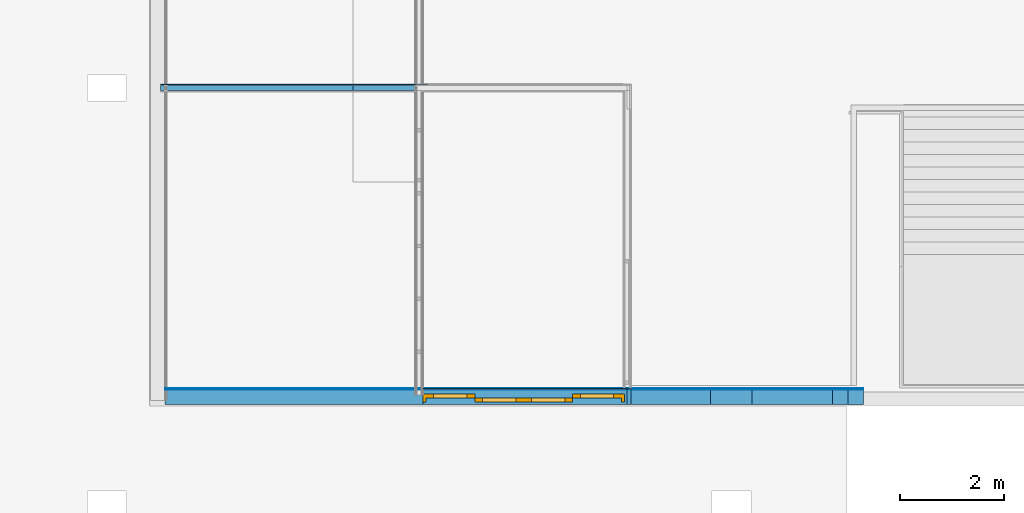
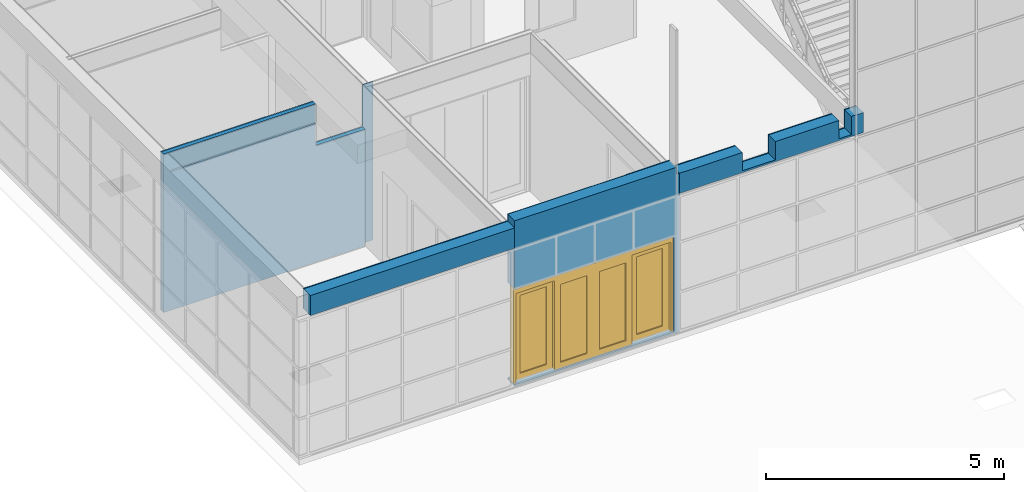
# One storey, part 29 of 109: 8 building element parts, 1 door, 1 opening, 3 elements without a shape of their own.
"""IFC2X3 building model written with IfcOpenShell, lengths in millimetres."""

from ifc_helpers import new_model, entity, si_unit, converted_unit, derived_unit, money_unit, direction, frame, origin_with_axes, place, context, subcontext, project, spatial, open_shell, faceted_brep, surface_model, material, type_object, element, fill, aggregate, save


model = new_model("IFC2X3")

# Units and contexts
model_context = context("Model", 3, precision=0.01, world=origin_with_axes(), true_north=direction((0.0, 1.0)))
body_context = subcontext(model_context, "Body", "Model", "MODEL_VIEW")
ifc_project = project(units=[si_unit("LENGTHUNIT", "METRE", prefix="MILLI"), si_unit("AREAUNIT", "SQUARE_METRE"), si_unit("VOLUMEUNIT", "CUBIC_METRE"), converted_unit("PLANEANGLEUNIT", "DEGREE", entity("IfcPlaneAngleMeasure", 0.0174532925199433), si_unit("PLANEANGLEUNIT", "RADIAN"), dimensions=[0, 0, 0, 0, 0, 0, 0]), money_unit("EUR"), converted_unit("TIMEUNIT", "Year", entity("IfcTimeMeasure", 31557600.0), si_unit("TIMEUNIT", "SECOND"), dimensions=[0, 0, 1, 0, 0, 0, 0]), si_unit("MASSUNIT", "GRAM", prefix="KILO"), si_unit("THERMODYNAMICTEMPERATUREUNIT", "DEGREE_CELSIUS"), si_unit("LUMINOUSINTENSITYUNIT", "LUMEN"), si_unit("ENERGYUNIT", "JOULE", prefix="MEGA"), derived_unit("THERMALCONDUCTANCEUNIT", [(si_unit("POWERUNIT", "WATT"), 1), (si_unit("LENGTHUNIT", "METRE"), -1), (si_unit("THERMODYNAMICTEMPERATUREUNIT", "KELVIN"), -1)]), derived_unit("SPECIFICHEATCAPACITYUNIT", [(si_unit("ENERGYUNIT", "JOULE"), 1), (si_unit("MASSUNIT", "GRAM", prefix="KILO"), -1), (si_unit("THERMODYNAMICTEMPERATUREUNIT", "KELVIN"), -1)]), derived_unit("MASSDENSITYUNIT", [(si_unit("MASSUNIT", "GRAM", prefix="KILO"), 1), (si_unit("VOLUMEUNIT", "CUBIC_METRE"), -1)])], contexts=[model_context])

# Site, building, storey
site_placement = place(None, origin_with_axes())
site = spatial("IfcSite", under=ifc_project, at=site_placement, Name="<site naam>", CompositionType="ELEMENT")
building_placement = place(site_placement, origin_with_axes())
building = spatial("IfcBuilding", under=site, at=building_placement, Name="<Naam gebouw>", CompositionType="ELEMENT")
storey_placement = place(building_placement, origin_with_axes())
storey = spatial("IfcBuildingStorey", under=building, at=storey_placement, Name="00 Begane grond", CompositionType="ELEMENT", Elevation=0.0)

# Door
door_style = type_object("IfcDoorStyle", Name="DSn 27", ConstructionType="NOTDEFINED", OperationType="USERDEFINED", ParameterTakesPrecedence=False, Sizeable=False)
wall_1_placement = place(storey_placement, frame((-3924.999999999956, 2231.999127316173, 0.0), z_axis=(0.0, 0.0, 1.0), x_axis=(1.0, 0.0, 0.0)))
opening_placement = place(wall_1_placement, frame((1934.999960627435, 0.0, 39.9957201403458), z_axis=(0.0, 0.0, 1.0), x_axis=(1.0, 0.0, 0.0)))
door_placement = place(opening_placement, frame((-1934.999960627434, 0.0, 0.0), z_axis=(0.0, 0.0, 1.0), x_axis=(1.0, 0.0, 0.0)))
door = element("IfcDoor", 1, at=door_placement, inside=storey, type_object=door_style, Name="21_BU-E-01_305", ObjectType="DOOR", OverallHeight=2450.0, OverallWidth=3870.0, context=body_context, shape_type="SurfaceModel", body=[
    faceted_brep([(3869.999921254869, -109.5000000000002, 0.0), (3869.999921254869, -269.0000000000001, 0.0), (3814.999921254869, -269.0000000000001, 0.0), (3814.999921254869, -109.5000000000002, 0.0), (3869.999921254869, -109.5000000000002, 2300.0), (3869.999921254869, -269.0000000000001, 2300.0), (3814.999921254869, -269.0000000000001, 2300.0), (3814.999921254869, -109.5000000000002, 2300.0)], [[[0, 1, 2, 3]], [[4, 5, 1, 0]], [[1, 5, 6, 2]], [[3, 2, 6, 7]], [[0, 3, 7, 4]], [[7, 6, 5, 4]]]),
    faceted_brep([(0.0, -109.5000000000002, 0.0), (0.0, -269.0000000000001, 0.0), (0.0, -269.0000000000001, 2300.0), (0.0, -109.5000000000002, 2300.0), (54.99999999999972, -109.5000000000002, 0.0), (54.99999999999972, -269.0000000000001, 0.0), (54.99999999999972, -269.0000000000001, 2300.0), (54.99999999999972, -109.5000000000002, 2300.0)], [[[0, 1, 2, 3]], [[4, 5, 1, 0]], [[1, 5, 6, 2]], [[3, 2, 6, 7]], [[0, 3, 7, 4]], [[7, 6, 5, 4]]]),
    faceted_brep([(3869.999921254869, -109.5000000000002, 2450.0), (3869.999921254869, -269.0000000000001, 2450.0), (3869.999921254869, -269.0000000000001, 2300.0), (3869.999921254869, -109.5000000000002, 2300.0), (0.0, -109.5000000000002, 2450.0), (0.0, -269.0000000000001, 2450.0), (0.0, -269.0000000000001, 2300.0), (54.99999999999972, -269.0000000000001, 2300.0), (3814.999921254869, -269.0000000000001, 2300.0), (3814.999921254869, -109.5000000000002, 2300.0), (54.99999999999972, -109.5000000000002, 2300.0), (0.0, -109.5000000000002, 2300.0)], [[[0, 1, 2, 3]], [[4, 5, 1, 0]], [[1, 5, 6, 7, 8, 2]], [[3, 2, 8, 9]], [[0, 3, 9, 10, 11, 4]], [[11, 6, 5, 4]], [[10, 7, 6, 11]], [[9, 8, 7, 10]]]),
    faceted_brep([(2874.999940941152, -109.5000000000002, 150.0), (3024.999940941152, -109.5000000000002, 150.0), (3024.999940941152, -186.5000000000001, 150.0), (2874.999940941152, -186.5000000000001, 150.0), (2874.999940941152, -109.5000000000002, 2150.0), (3024.999940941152, -109.5000000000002, 2150.0), (3024.999940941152, -186.5000000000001, 2150.0), (2874.999940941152, -186.5000000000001, 2150.0)], [[[0, 1, 2, 3]], [[0, 4, 5, 1]], [[1, 5, 6, 2]], [[3, 2, 6, 7]], [[4, 0, 3, 7]], [[5, 4, 7, 6]]]),
    faceted_brep([(3814.999921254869, -109.5000000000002, 150.0), (3814.999921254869, -109.5000000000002, 2150.0), (3814.999921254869, -186.5000000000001, 2150.0), (3814.999921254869, -186.5000000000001, 150.0), (3664.999921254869, -109.5000000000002, 150.0), (3664.999921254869, -109.5000000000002, 2150.0), (3664.999921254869, -186.5000000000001, 2150.0), (3664.999921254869, -186.5000000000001, 150.0)], [[[0, 1, 2, 3]], [[0, 4, 5, 1]], [[1, 5, 6, 2]], [[3, 2, 6, 7]], [[4, 0, 3, 7]], [[5, 4, 7, 6]]]),
    faceted_brep([(2874.999940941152, -109.5000000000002, 0.0), (3814.999921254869, -109.5000000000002, 0.0), (3814.999921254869, -186.5000000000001, 0.0), (2874.999940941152, -186.5000000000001, 0.0), (2874.999940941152, -109.5000000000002, 150.0), (3024.999940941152, -109.5000000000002, 150.0), (3664.999921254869, -109.5000000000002, 150.0), (3814.999921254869, -109.5000000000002, 150.0), (3814.999921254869, -186.5000000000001, 150.0), (3664.999921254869, -186.5000000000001, 150.0), (3024.999940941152, -186.5000000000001, 150.0), (2874.999940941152, -186.5000000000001, 150.0)], [[[0, 1, 2, 3]], [[0, 4, 5, 6, 7, 1]], [[1, 7, 8, 2]], [[3, 2, 8, 9, 10, 11]], [[4, 0, 3, 11]], [[5, 4, 11, 10]], [[6, 5, 10, 9]], [[7, 6, 9, 8]]]),
    faceted_brep([(2874.999940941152, -109.5000000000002, 2300.0), (2874.999940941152, -109.5000000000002, 2150.0), (2874.999940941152, -186.5000000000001, 2150.0), (2874.999940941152, -186.5000000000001, 2300.0), (3814.999921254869, -109.5000000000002, 2300.0), (3814.999921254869, -109.5000000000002, 2150.0), (3664.999921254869, -109.5000000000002, 2150.0), (3024.999940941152, -109.5000000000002, 2150.0), (3024.999940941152, -186.5000000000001, 2150.0), (3664.999921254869, -186.5000000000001, 2150.0), (3814.999921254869, -186.5000000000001, 2150.0), (3814.999921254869, -186.5000000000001, 2300.0)], [[[0, 1, 2, 3]], [[0, 4, 5, 6, 7, 1]], [[1, 7, 8, 2]], [[3, 2, 8, 9, 10, 11]], [[4, 0, 3, 11]], [[5, 4, 11, 10]], [[6, 5, 10, 9]], [[7, 6, 9, 8]]]),
    surface_model("IfcShellBasedSurfaceModel", [(3024.999940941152, -142.0000000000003, 150.0), (3024.999940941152, -141.9999999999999, 2150.0), (3664.999921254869, -141.9999999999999, 2150.0), (3664.999921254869, -142.0000000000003, 150.0)], [open_shell([[[0, 1, 2, 3]]])]),
    surface_model("IfcShellBasedSurfaceModel", [(3024.999940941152, -154.0000000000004, 150.0), (3664.999921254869, -154.0000000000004, 150.0), (3664.999921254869, -153.9999999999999, 2150.0), (3024.999940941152, -153.9999999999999, 2150.0)], [open_shell([[[0, 1, 2, 3]]])]),
    faceted_brep([(2874.999940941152, -186.5000000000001, 150.0), (2874.999940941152, -263.5000000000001, 150.0), (2724.999940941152, -263.5000000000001, 150.0), (2724.999940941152, -186.5000000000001, 150.0), (2874.999940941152, -186.5000000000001, 2150.0), (2874.999940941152, -263.5000000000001, 2150.0), (2724.999940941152, -263.5000000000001, 2150.0), (2724.999940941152, -186.5000000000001, 2150.0)], [[[0, 1, 2, 3]], [[4, 5, 1, 0]], [[1, 5, 6, 2]], [[3, 2, 6, 7]], [[0, 3, 7, 4]], [[7, 6, 5, 4]]]),
    faceted_brep([(1934.999960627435, -186.5000000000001, 150.0), (1934.999960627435, -263.5000000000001, 150.0), (1934.999960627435, -263.5000000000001, 2150.0), (1934.999960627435, -186.5000000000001, 2150.0), (2084.999960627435, -186.5000000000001, 150.0), (2084.999960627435, -263.5000000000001, 150.0), (2084.999960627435, -263.5000000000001, 2150.0), (2084.999960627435, -186.5000000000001, 2150.0)], [[[0, 1, 2, 3]], [[4, 5, 1, 0]], [[1, 5, 6, 2]], [[3, 2, 6, 7]], [[0, 3, 7, 4]], [[7, 6, 5, 4]]]),
    faceted_brep([(2874.999940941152, -186.5000000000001, 0.0), (2874.999940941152, -263.5000000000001, 0.0), (1934.999960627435, -263.5000000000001, 0.0), (1934.999960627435, -186.5000000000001, 0.0), (2874.999940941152, -186.5000000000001, 150.0), (2874.999940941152, -263.5000000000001, 150.0), (2724.999940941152, -263.5000000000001, 150.0), (2084.999960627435, -263.5000000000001, 150.0), (1934.999960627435, -263.5000000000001, 150.0), (1934.999960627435, -186.5000000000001, 150.0), (2084.999960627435, -186.5000000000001, 150.0), (2724.999940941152, -186.5000000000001, 150.0)], [[[0, 1, 2, 3]], [[4, 5, 1, 0]], [[1, 5, 6, 7, 8, 2]], [[3, 2, 8, 9]], [[0, 3, 9, 10, 11, 4]], [[11, 6, 5, 4]], [[10, 7, 6, 11]], [[9, 8, 7, 10]]]),
    faceted_brep([(2874.999940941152, -186.5000000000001, 2300.0), (2874.999940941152, -263.5000000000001, 2300.0), (2874.999940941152, -263.5000000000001, 2150.0), (2874.999940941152, -186.5000000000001, 2150.0), (1934.999960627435, -186.5000000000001, 2300.0), (1934.999960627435, -263.5000000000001, 2300.0), (1934.999960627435, -263.5000000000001, 2150.0), (2084.999960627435, -263.5000000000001, 2150.0), (2724.999940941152, -263.5000000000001, 2150.0), (2724.999940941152, -186.5000000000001, 2150.0), (2084.999960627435, -186.5000000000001, 2150.0), (1934.999960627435, -186.5000000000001, 2150.0)], [[[0, 1, 2, 3]], [[4, 5, 1, 0]], [[1, 5, 6, 7, 8, 2]], [[3, 2, 8, 9]], [[0, 3, 9, 10, 11, 4]], [[11, 6, 5, 4]], [[10, 7, 6, 11]], [[9, 8, 7, 10]]]),
    surface_model("IfcShellBasedSurfaceModel", [(2724.999940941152, -219.0000000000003, 150.0), (2084.999960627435, -219.0000000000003, 150.0), (2084.999960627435, -218.9999999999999, 2150.0), (2724.999940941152, -218.9999999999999, 2150.0)], [open_shell([[[0, 1, 2, 3]]])]),
    surface_model("IfcShellBasedSurfaceModel", [(2724.999940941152, -231.0000000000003, 150.0), (2724.999940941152, -230.9999999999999, 2150.0), (2084.999960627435, -230.9999999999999, 2150.0), (2084.999960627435, -231.0000000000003, 150.0)], [open_shell([[[0, 1, 2, 3]]])]),
    faceted_brep([(994.9999803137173, -109.5000000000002, 150.0), (994.9999803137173, -186.5000000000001, 150.0), (844.9999803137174, -186.5000000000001, 150.0), (844.9999803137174, -109.5000000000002, 150.0), (994.9999803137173, -109.5000000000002, 2150.0), (994.9999803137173, -186.5000000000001, 2150.0), (844.9999803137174, -186.5000000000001, 2150.0), (844.9999803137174, -109.5000000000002, 2150.0)], [[[0, 1, 2, 3]], [[4, 5, 1, 0]], [[1, 5, 6, 2]], [[3, 2, 6, 7]], [[0, 3, 7, 4]], [[7, 6, 5, 4]]]),
    faceted_brep([(55.00000000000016, -109.5000000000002, 150.0), (55.00000000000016, -186.5000000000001, 150.0), (55.00000000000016, -186.5000000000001, 2150.0), (55.00000000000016, -109.5000000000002, 2150.0), (205.0000000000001, -109.5000000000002, 150.0), (205.0000000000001, -186.5000000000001, 150.0), (205.0000000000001, -186.5000000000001, 2150.0), (205.0000000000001, -109.5000000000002, 2150.0)], [[[0, 1, 2, 3]], [[4, 5, 1, 0]], [[1, 5, 6, 2]], [[3, 2, 6, 7]], [[0, 3, 7, 4]], [[7, 6, 5, 4]]]),
    faceted_brep([(994.9999803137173, -109.5000000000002, 0.0), (994.9999803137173, -186.5000000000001, 0.0), (55.00000000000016, -186.5000000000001, 0.0), (55.00000000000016, -109.5000000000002, 0.0), (994.9999803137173, -109.5000000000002, 150.0), (994.9999803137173, -186.5000000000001, 150.0), (844.9999803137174, -186.5000000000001, 150.0), (205.0000000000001, -186.5000000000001, 150.0), (55.00000000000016, -186.5000000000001, 150.0), (55.00000000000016, -109.5000000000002, 150.0), (205.0000000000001, -109.5000000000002, 150.0), (844.9999803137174, -109.5000000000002, 150.0)], [[[0, 1, 2, 3]], [[4, 5, 1, 0]], [[1, 5, 6, 7, 8, 2]], [[3, 2, 8, 9]], [[0, 3, 9, 10, 11, 4]], [[11, 6, 5, 4]], [[10, 7, 6, 11]], [[9, 8, 7, 10]]]),
    faceted_brep([(994.9999803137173, -109.5000000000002, 2300.0), (994.9999803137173, -186.5000000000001, 2300.0), (994.9999803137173, -186.5000000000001, 2150.0), (994.9999803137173, -109.5000000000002, 2150.0), (55.00000000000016, -109.5000000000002, 2300.0), (55.00000000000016, -186.5000000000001, 2300.0), (55.00000000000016, -186.5000000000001, 2150.0), (205.0000000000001, -186.5000000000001, 2150.0), (844.9999803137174, -186.5000000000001, 2150.0), (844.9999803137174, -109.5000000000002, 2150.0), (205.0000000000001, -109.5000000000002, 2150.0), (55.00000000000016, -109.5000000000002, 2150.0)], [[[0, 1, 2, 3]], [[4, 5, 1, 0]], [[1, 5, 6, 7, 8, 2]], [[3, 2, 8, 9]], [[0, 3, 9, 10, 11, 4]], [[11, 6, 5, 4]], [[10, 7, 6, 11]], [[9, 8, 7, 10]]]),
    surface_model("IfcShellBasedSurfaceModel", [(844.9999803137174, -142.0000000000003, 150.0), (205.0000000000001, -142.0000000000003, 150.0), (205.0000000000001, -141.9999999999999, 2150.0), (844.9999803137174, -141.9999999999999, 2150.0)], [open_shell([[[0, 1, 2, 3]]])]),
    surface_model("IfcShellBasedSurfaceModel", [(844.9999803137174, -154.0000000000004, 150.0), (844.9999803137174, -153.9999999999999, 2150.0), (205.0000000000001, -153.9999999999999, 2150.0), (205.0000000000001, -154.0000000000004, 150.0)], [open_shell([[[0, 1, 2, 3]]])]),
    faceted_brep([(994.9999803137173, -186.5000000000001, 150.0), (1144.999980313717, -186.5000000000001, 150.0), (1144.999980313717, -263.5000000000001, 150.0), (994.9999803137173, -263.5000000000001, 150.0), (994.9999803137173, -186.5000000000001, 2150.0), (1144.999980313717, -186.5000000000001, 2150.0), (1144.999980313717, -263.5000000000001, 2150.0), (994.9999803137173, -263.5000000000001, 2150.0)], [[[0, 1, 2, 3]], [[0, 4, 5, 1]], [[1, 5, 6, 2]], [[3, 2, 6, 7]], [[4, 0, 3, 7]], [[5, 4, 7, 6]]]),
    faceted_brep([(1934.999960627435, -186.5000000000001, 150.0), (1934.999960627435, -186.5000000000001, 2150.0), (1934.999960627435, -263.5000000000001, 2150.0), (1934.999960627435, -263.5000000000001, 150.0), (1784.999960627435, -186.5000000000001, 150.0), (1784.999960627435, -186.5000000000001, 2150.0), (1784.999960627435, -263.5000000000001, 2150.0), (1784.999960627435, -263.5000000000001, 150.0)], [[[0, 1, 2, 3]], [[0, 4, 5, 1]], [[1, 5, 6, 2]], [[3, 2, 6, 7]], [[4, 0, 3, 7]], [[5, 4, 7, 6]]]),
    faceted_brep([(994.9999803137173, -186.5000000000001, 0.0), (1934.999960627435, -186.5000000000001, 0.0), (1934.999960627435, -263.5000000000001, 0.0), (994.9999803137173, -263.5000000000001, 0.0), (994.9999803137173, -186.5000000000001, 150.0), (1144.999980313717, -186.5000000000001, 150.0), (1784.999960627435, -186.5000000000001, 150.0), (1934.999960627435, -186.5000000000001, 150.0), (1934.999960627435, -263.5000000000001, 150.0), (1784.999960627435, -263.5000000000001, 150.0), (1144.999980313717, -263.5000000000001, 150.0), (994.9999803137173, -263.5000000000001, 150.0)], [[[0, 1, 2, 3]], [[0, 4, 5, 6, 7, 1]], [[1, 7, 8, 2]], [[3, 2, 8, 9, 10, 11]], [[4, 0, 3, 11]], [[5, 4, 11, 10]], [[6, 5, 10, 9]], [[7, 6, 9, 8]]]),
    faceted_brep([(994.9999803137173, -186.5000000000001, 2300.0), (994.9999803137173, -186.5000000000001, 2150.0), (994.9999803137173, -263.5000000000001, 2150.0), (994.9999803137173, -263.5000000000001, 2300.0), (1934.999960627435, -186.5000000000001, 2300.0), (1934.999960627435, -186.5000000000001, 2150.0), (1784.999960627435, -186.5000000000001, 2150.0), (1144.999980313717, -186.5000000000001, 2150.0), (1144.999980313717, -263.5000000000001, 2150.0), (1784.999960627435, -263.5000000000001, 2150.0), (1934.999960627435, -263.5000000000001, 2150.0), (1934.999960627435, -263.5000000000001, 2300.0)], [[[0, 1, 2, 3]], [[0, 4, 5, 6, 7, 1]], [[1, 7, 8, 2]], [[3, 2, 8, 9, 10, 11]], [[4, 0, 3, 11]], [[5, 4, 11, 10]], [[6, 5, 10, 9]], [[7, 6, 9, 8]]]),
    surface_model("IfcShellBasedSurfaceModel", [(1144.999980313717, -219.0000000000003, 150.0), (1144.999980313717, -218.9999999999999, 2150.0), (1784.999960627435, -218.9999999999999, 2150.0), (1784.999960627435, -219.0000000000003, 150.0)], [open_shell([[[0, 1, 2, 3]]])]),
    surface_model("IfcShellBasedSurfaceModel", [(1144.999980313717, -231.0000000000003, 150.0), (1784.999960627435, -231.0000000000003, 150.0), (1784.999960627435, -230.9999999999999, 2150.0), (1144.999980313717, -230.9999999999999, 2150.0)], [open_shell([[[0, 1, 2, 3]]])]),
])

# Wall, opening
wall_type_1 = type_object("IfcWallType", Name="HSB_285 zonder gevelbeplating 313", PredefinedType="NOTDEFINED")
wall_1 = element("IfcWall", 2, at=wall_1_placement, inside=storey, type_object=wall_type_1, Name="21_Binnenwand_HSB_285")
opening = element("IfcOpeningElement", 3, at=opening_placement, cuts=wall_1, Name="21_BU-E-01_305", context=body_context, shape_type="Brep", body=[
    faceted_brep([(1934.999960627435, -269.0000000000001, 0.0), (1934.999960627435, -269.0000000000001, 2450.0), (1934.999960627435, -313.5000000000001, 2450.0), (1934.999960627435, -313.5000000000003, 0.0), (1934.999960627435, 0.9999999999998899, 0.0), (1934.999960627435, 0.9999999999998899, 2450.0), (-1934.999960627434, -269.0000000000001, 2450.0), (-1934.999960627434, -313.5000000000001, 2450.0), (-1934.999960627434, -313.5000000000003, 0.0), (-1934.999960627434, -269.0000000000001, 0.0), (-1934.999960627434, 0.9999999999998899, 0.0), (-1934.999960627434, 0.9999999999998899, 2450.0)], [[[0, 1, 2, 3]], [[1, 0, 4, 5]], [[1, 6, 7, 2]], [[7, 8, 3, 2]], [[9, 0, 3, 8]], [[0, 9, 10, 4]], [[5, 4, 10, 11]], [[6, 1, 5, 11]], [[6, 9, 8, 7]], [[9, 6, 11, 10]]]),
])

fill(opening, door)

# Building element part
ifc_material_1 = material(Name="gipsplaat")
building_element_part_1_placement = place(wall_1_placement, origin_with_axes())
building_element_part_1 = element("IfcBuildingElementPart", 4, at=building_element_part_1_placement, material=ifc_material_1, Name="gipsplaat", context=body_context, shape_type="Brep", body=[
    faceted_brep([(0.001377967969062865, 0.0, 4220.0), (2874.999999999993, 0.0, 4220.0), (2874.999999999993, 0.0, 4250.0), (3924.99992125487, 0.0, 4250.000000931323), (3924.99992125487, 0.0, 4070.0), (3850.000000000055, 0.0, 4070.0), (3849.999983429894, 0.0, 3.000000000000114), (-3.665686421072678e-06, 0.0, 3.000000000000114), (0.001377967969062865, -12.50000000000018, 4220.0), (2874.999999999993, -12.50000000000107, 4220.0), (2874.999999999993, -12.50000000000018, 4250.0), (3924.99992125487, -12.49999999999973, 4250.000000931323), (3924.99992125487, -12.49999999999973, 4070.0), (3850.000000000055, -12.49999999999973, 4070.0), (3849.999983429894, -12.4999999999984, 3.000000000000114), (-3.665686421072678e-06, -12.50000000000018, 3.000000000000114)], [[[0, 1, 2, 3, 4, 5, 6, 7]], [[1, 0, 8, 9]], [[10, 2, 1, 9]], [[2, 10, 11, 3]], [[11, 12, 4, 3]], [[12, 13, 5, 4]], [[14, 6, 5, 13]], [[7, 6, 14, 15]], [[8, 0, 7, 15]], [[9, 8, 15, 14, 13, 12, 11, 10]]]),
])

ifc_material_2 = material(Name="hout_OSB")
building_element_part_2_placement = place(wall_1_placement, origin_with_axes())
building_element_part_2 = element("IfcBuildingElementPart", 5, at=building_element_part_2_placement, material=ifc_material_2, Name="hout_OSB", context=body_context, shape_type="Brep", body=[
    faceted_brep([(3849.999983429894, -12.49999999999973, 3.000000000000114), (-3.665686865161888e-06, -12.50000000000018, 3.000000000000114), (0.0, -12.49999999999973, 4250.0), (3924.99992125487, -12.49999999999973, 4250.000000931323), (3924.99992125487, -12.49999999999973, 4070.0), (3999.999981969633, -12.49999999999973, 4070.0), (3999.999981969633, -12.49999999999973, 0.0), (3849.999983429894, -12.49999999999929, 0.0), (3849.999983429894, -27.49999813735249, 3.000000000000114), (-3.665686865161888e-06, -27.49999999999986, 3.000000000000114), (0.0, -27.49999999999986, 4250.0), (3924.99992125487, -27.49999813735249, 4250.000000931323), (3924.99992125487, -27.49999813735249, 4070.0), (3999.999981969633, -27.49999813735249, 4070.0), (3999.999981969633, -27.49999999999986, 0.0), (3849.999983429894, -27.49999999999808, 0.0)], [[[0, 1, 2, 3, 4, 5, 6, 7]], [[1, 0, 8, 9]], [[1, 9, 10, 2]], [[10, 11, 3, 2]], [[12, 4, 3, 11]], [[12, 13, 5, 4]], [[6, 5, 13, 14]], [[15, 7, 6, 14]], [[0, 7, 15, 8]], [[8, 15, 14, 13, 12, 11, 10, 9]]]),
])

ifc_material_3 = material(Name="isolatie_houtvezel")
building_element_part_3_placement = place(wall_1_placement, origin_with_axes())
building_element_part_3 = element("IfcBuildingElementPart", 6, at=building_element_part_3_placement, material=ifc_material_3, Name="isolatie_houtvezel", context=body_context, shape_type="Brep", body=[
    faceted_brep([(3849.999983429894, -27.49999813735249, 3.000000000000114), (-3.665686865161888e-06, -27.49999999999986, 3.000000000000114), (0.0, -27.49999999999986, 4250.0), (3924.99992125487, -27.49999813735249, 4250.000000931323), (3924.99992125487, -27.49999813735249, 4070.0), (3999.999981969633, -27.49999813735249, 4070.0), (3999.999981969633, -27.49999999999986, 0.0), (3849.999983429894, -27.49999999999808, 0.0), (3849.999983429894, -128.5000000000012, 3.000000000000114), (-3.665686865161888e-06, -128.5000000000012, 3.000000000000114), (-3.665686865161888e-06, -128.5000000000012, 0.0), (0.0, -312.5, 0.0), (0.0, -312.5, 4250.0), (3924.99992125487, -312.4999999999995, 4250.000000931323), (3924.99992125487, -312.4999999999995, 4070.0), (3999.999981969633, -312.4999999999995, 4070.0), (3999.999981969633, -312.5, 0.0), (3849.999983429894, -128.5000000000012, 0.0)], [[[0, 1, 2, 3, 4, 5, 6, 7]], [[1, 0, 8, 9]], [[9, 10, 11, 12, 2, 1]], [[12, 13, 3, 2]], [[14, 4, 3, 13]], [[14, 15, 5, 4]], [[6, 5, 15, 16]], [[17, 7, 6, 16, 11, 10]], [[0, 7, 17, 8]], [[17, 10, 9, 8]], [[15, 14, 13, 12, 11, 16]]]),
])

aggregate(wall_1, [building_element_part_1, building_element_part_2, building_element_part_3])

# Wall, building element parts
wall_type_2 = type_object("IfcWallType", Name="MS-01 GF 150 ECO DGS/2.100.2.A 150", PredefinedType="NOTDEFINED")
wall_2_placement = place(storey_placement, frame((-8968.96338968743, 8000.000000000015, 0.0), z_axis=(0.0, 0.0, 1.0), x_axis=(1.0, 0.0, 0.0)))
wall_2 = element("IfcWall", 7, at=wall_2_placement, inside=storey, type_object=wall_type_2, Name="22_Binnenwand_MS-01")
building_element_part_4_placement = place(wall_2_placement, origin_with_axes())
building_element_part_4 = element("IfcBuildingElementPart", 8, at=building_element_part_4_placement, material=ifc_material_1, Name="gipsplaat", context=body_context, shape_type="Brep", body=[
    faceted_brep([(3693.915193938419, 62.5, 4070.0), (3693.915193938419, 75.00000000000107, 4070.0), (0.0, 75.00000000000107, 4070.0), (0.0, 62.5, 4070.0), (3693.915193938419, 74.99999999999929, 3600.0), (3693.915193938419, 62.5, 3600.0), (3693.915193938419, 74.99999999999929, 3000.0), (4893.963384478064, 74.99999999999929, 3000.0), (4893.963384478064, 75.00000000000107, 4070.0), (5143.963389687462, 75.00000000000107, 4070.0), (5143.963389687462, 75.00000000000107, 0.0), (0.0, 74.99999999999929, 0.0), (184.5000000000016, 74.99999999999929, 3600.0), (184.5000000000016, 74.99999999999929, 3560.0), (3693.915193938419, 74.99999999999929, 3560.0), (0.0, 62.5, 0.0), (3693.915193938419, 62.5, 3000.0), (3693.915193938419, 62.5, 3560.0), (184.5000000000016, 62.50000000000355, 3560.0), (184.5000000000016, 62.50000000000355, 3600.0), (5143.963389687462, 62.5, 0.0), (5143.963389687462, 62.5, 4070.0), (4893.963384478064, 62.5, 4070.0), (4893.963384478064, 62.5, 3000.0)], [[[0, 1, 2, 3]], [[4, 1, 0, 5]], [[6, 7, 8, 9, 10, 11, 2, 1, 4, 12, 13, 14]], [[15, 3, 2, 11]], [[16, 17, 18, 19, 5, 0, 3, 15, 20, 21, 22, 23]], [[4, 5, 19, 12]], [[7, 6, 16, 23]], [[22, 8, 7, 23]], [[8, 22, 21, 9]], [[9, 21, 20, 10]], [[20, 15, 11, 10]], [[13, 12, 19, 18]], [[17, 14, 13, 18]], [[6, 14, 17, 16]]]),
])
ifc_material_4 = material(Name="isolatie_steenwol LSW")
building_element_part_5_placement = place(wall_2_placement, origin_with_axes())
building_element_part_5 = element("IfcBuildingElementPart", 9, at=building_element_part_5_placement, material=ifc_material_4, Name="isolatie_steenwol LSW", context=body_context, shape_type="Brep", body=[
    faceted_brep([(3693.915193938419, -49.99999999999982, 4070.0), (3693.915193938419, 50.00000000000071, 4070.0), (0.0, 50.00000000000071, 4070.0), (0.0, -49.99999999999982, 4070.0), (3693.915193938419, 50.00000000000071, 3600.0), (3693.915193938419, -50.00000000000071, 3600.0), (3693.915193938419, 50.00000000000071, 3560.0), (3693.915193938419, 49.99999999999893, 3000.0), (4893.963384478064, 50.00000000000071, 3000.0), (4893.963389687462, 50.00000000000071, 0.0), (0.0, 50.00000000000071, 0.0), (184.5000000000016, 50.00000000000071, 3600.0), (184.5000000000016, 50.00000000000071, 3560.0), (0.0, -49.99999999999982, 0.0), (3693.915193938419, -50.00000000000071, 3000.0), (3693.915193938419, -50.00000000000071, 3560.0), (184.5000000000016, -49.99999999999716, 3560.0), (184.5000000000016, -49.99999999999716, 3600.0), (4893.963389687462, -49.99999999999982, 0.0), (4893.963384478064, -49.99999999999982, 3000.0)], [[[0, 1, 2, 3]], [[4, 1, 0, 5]], [[6, 7, 8, 9, 10, 2, 1, 4, 11, 12]], [[13, 3, 2, 10]], [[14, 15, 16, 17, 5, 0, 3, 13, 18, 19]], [[4, 5, 17, 11]], [[7, 6, 15, 14]], [[19, 8, 7, 14]], [[8, 19, 18, 9]], [[10, 9, 18, 13]], [[12, 11, 17, 16]], [[15, 6, 12, 16]]]),
])
aggregate(wall_2, [building_element_part_4, building_element_part_5])

wall_3_placement = place(storey_placement, frame((4539.500809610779, 1919.499127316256, 3550.000176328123), z_axis=(0.0, 0.0, 1.0), x_axis=(-1.0, 0.0, 0.0)))
wall_3 = element("IfcWall", 10, at=wall_3_placement, inside=storey, type_object=wall_type_1, Name="21_Binnenwand_HSB_285")
building_element_part_6_placement = place(wall_3_placement, origin_with_axes())
building_element_part_6 = element("IfcBuildingElementPart", 11, at=building_element_part_6_placement, material=ifc_material_3, Name="isolatie_houtvezel", context=body_context, shape_type="Brep", body=[
    faceted_brep([(594.5008096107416, -285.0000000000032, 49.99982367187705), (294.5008096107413, -284.9999999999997, 49.99982367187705), (294.5008096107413, -285.0000000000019, 519.9998236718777), (0.0, -284.9999999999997, 519.9998236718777), (0.0, -284.9999999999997, 0.0), (13422.46338968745, -285.0000000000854, 0.0), (13422.46338968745, -285.0000000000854, 519.9998236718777), (2939.500809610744, -285.0000000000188, 519.9998236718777), (2939.500809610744, -285.0000000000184, 49.99982367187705), (2139.500809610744, -285.0000000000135, 49.99982367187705), (2139.500809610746, -285.0000000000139, 519.9998236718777), (594.5008096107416, -285.0000000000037, 519.9998236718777), (594.5008096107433, 0.0, 49.99982367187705), (294.5008096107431, 0.0, 49.99982367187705), (294.5008096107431, 0.0, 519.9998236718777), (0.0, 0.0, 519.9998236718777), (0.0, 0.0, 0.0), (13422.46338968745, 0.0, 0.0), (13422.46338968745, 0.0, 519.9998236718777), (2939.500809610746, 0.0, 519.9998236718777), (2939.500809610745, 0.0, 49.99982367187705), (2139.500809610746, 0.0, 49.99982367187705), (2139.500809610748, 0.0, 519.9998236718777), (594.5008096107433, 0.0, 519.9998236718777)], [[[0, 1, 2, 3, 4, 5, 6, 7, 8, 9, 10, 11]], [[1, 0, 12, 13]], [[14, 2, 1, 13]], [[2, 14, 15, 3]], [[4, 3, 15, 16]], [[16, 17, 5, 4]], [[18, 6, 5, 17]], [[19, 7, 6, 18]], [[8, 7, 19, 20]], [[9, 8, 20, 21]], [[22, 10, 9, 21]], [[23, 11, 10, 22]], [[0, 11, 23, 12]], [[12, 23, 22, 21, 20, 19, 18, 17, 16, 15, 14, 13]]]),
])
building_element_part_7_placement = place(wall_3_placement, origin_with_axes())
building_element_part_7 = element("IfcBuildingElementPart", 12, at=building_element_part_7_placement, material=ifc_material_2, Name="hout_OSB", context=body_context, shape_type="Brep", body=[
    faceted_brep([(594.5008096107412, -300.0000000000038, 49.99982367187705), (294.5008096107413, -300.000000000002, 49.99982367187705), (294.5008096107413, -300.000000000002, 519.9998236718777), (0.0, -299.9999999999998, 519.9998236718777), (0.0, -299.9999999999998, 0.0), (13422.46338968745, -300.0000000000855, 0.0), (13422.46338968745, -300.0000000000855, 519.9998236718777), (2939.500809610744, -300.0000000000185, 519.9998236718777), (2939.500809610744, -300.0000000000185, 49.99982367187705), (2139.500809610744, -300.0000000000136, 49.99982367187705), (2139.500809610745, -300.0000000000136, 519.9998236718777), (594.5008096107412, -300.0000000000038, 519.9998236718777), (594.5008096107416, -285.0000000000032, 49.99982367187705), (294.5008096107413, -284.9999999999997, 49.99982367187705), (294.5008096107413, -285.0000000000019, 519.9998236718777), (0.0, -284.9999999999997, 519.9998236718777), (0.0, -284.9999999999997, 0.0), (13422.46338968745, -285.0000000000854, 0.0), (13422.46338968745, -285.0000000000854, 519.9998236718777), (2939.500809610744, -285.0000000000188, 519.9998236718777), (2939.500809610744, -285.0000000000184, 49.99982367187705), (2139.500809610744, -285.0000000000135, 49.99982367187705), (2139.500809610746, -285.0000000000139, 519.9998236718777), (594.5008096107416, -285.0000000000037, 519.9998236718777)], [[[0, 1, 2, 3, 4, 5, 6, 7, 8, 9, 10, 11]], [[1, 0, 12, 13]], [[14, 2, 1, 13]], [[2, 14, 15, 3]], [[4, 3, 15, 16]], [[16, 17, 5, 4]], [[18, 6, 5, 17]], [[19, 7, 6, 18]], [[8, 7, 19, 20]], [[9, 8, 20, 21]], [[22, 10, 9, 21]], [[23, 11, 10, 22]], [[0, 11, 23, 12]], [[12, 23, 22, 21, 20, 19, 18, 17, 16, 15, 14, 13]]]),
])
building_element_part_8_placement = place(wall_3_placement, origin_with_axes())
building_element_part_8 = element("IfcBuildingElementPart", 13, at=building_element_part_8_placement, material=ifc_material_1, Name="gipsplaat", context=body_context, shape_type="Brep", body=[
    faceted_brep([(594.5008096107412, -312.5000000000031, 49.99982367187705), (294.5008096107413, -312.4999999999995, 49.99982367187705), (294.5008096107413, -312.5000000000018, 519.9998236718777), (0.0, -312.4999999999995, 519.9998236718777), (0.0, -312.5, 0.0), (13422.46338968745, -312.5000000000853, 0.0), (13422.46338968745, -312.5000000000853, 519.9998236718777), (2939.500809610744, -312.5000000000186, 519.9998236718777), (2939.500809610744, -312.5000000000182, 49.99982367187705), (2139.500809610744, -312.5000000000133, 49.99982367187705), (2139.500809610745, -312.5000000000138, 519.9998236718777), (594.5008096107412, -312.5000000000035, 519.9998236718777), (594.5008096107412, -300.0000000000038, 49.99982367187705), (294.5008096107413, -300.000000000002, 49.99982367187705), (294.5008096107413, -300.000000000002, 519.9998236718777), (0.0, -299.9999999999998, 519.9998236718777), (0.0, -299.9999999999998, 0.0), (13422.46338968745, -300.0000000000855, 0.0), (13422.46338968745, -300.0000000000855, 519.9998236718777), (2939.500809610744, -300.0000000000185, 519.9998236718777), (2939.500809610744, -300.0000000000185, 49.99982367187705), (2139.500809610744, -300.0000000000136, 49.99982367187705), (2139.500809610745, -300.0000000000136, 519.9998236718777), (594.5008096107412, -300.0000000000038, 519.9998236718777)], [[[0, 1, 2, 3, 4, 5, 6, 7, 8, 9, 10, 11]], [[1, 0, 12, 13]], [[14, 2, 1, 13]], [[2, 14, 15, 3]], [[4, 3, 15, 16]], [[16, 17, 5, 4]], [[18, 6, 5, 17]], [[19, 7, 6, 18]], [[8, 7, 19, 20]], [[9, 8, 20, 21]], [[22, 10, 9, 21]], [[23, 11, 10, 22]], [[0, 11, 23, 12]], [[12, 23, 22, 21, 20, 19, 18, 17, 16, 15, 14, 13]]]),
])
aggregate(wall_3, [building_element_part_6, building_element_part_7, building_element_part_8])

save(model, "model.ifc")
